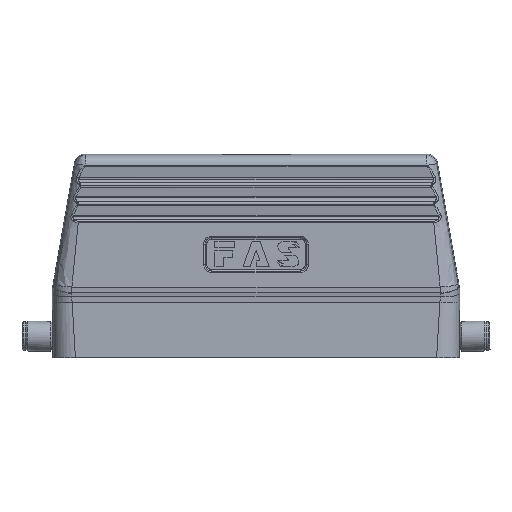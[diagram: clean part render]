
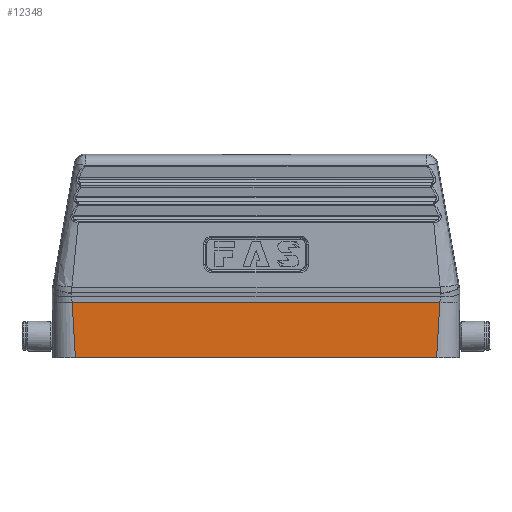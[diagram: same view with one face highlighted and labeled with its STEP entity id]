
A CAD part, front view. The second image highlights one B-rep face of the part: STEP entity #12348.
In plain terms, the highlighted planar face has unit normal (0, -1, 0).
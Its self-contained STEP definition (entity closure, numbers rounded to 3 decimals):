
#370 = CARTESIAN_POINT ( 'NONE',  ( -53.415, -21.5, 4.163 ) ) ;
#402 = DIRECTION ( 'NONE',  ( -1., 0., 0. ) ) ;
#453 = CARTESIAN_POINT ( 'NONE',  ( -53.912, -21.5, 12.355 ) ) ;
#481 = CARTESIAN_POINT ( 'NONE',  ( 53.901, -21.5, 12.14 ) ) ;
#532 = CARTESIAN_POINT ( 'NONE',  ( -53.421, -21.5, 4.255 ) ) ;
#704 = CARTESIAN_POINT ( 'NONE',  ( -53.963, -21.5, 13.356 ) ) ;
#710 = EDGE_LOOP ( 'NONE', ( #15019, #3205, #15597, #1263 ) ) ;
#1263 = ORIENTED_EDGE ( 'NONE', *, *, #15553, .T. ) ;
#1333 = DIRECTION ( 'NONE',  ( 0., 0., -1. ) ) ;
#2079 = CARTESIAN_POINT ( 'NONE',  ( 53.898, -21.5, 12.083 ) ) ;
#2160 = CARTESIAN_POINT ( 'NONE',  ( 53.244, -21.5, 1.55 ) ) ;
#2287 = CARTESIAN_POINT ( 'NONE',  ( -53.907, -21.5, 12.255 ) ) ;
#2317 = CARTESIAN_POINT ( 'NONE',  ( 54.035, -21.5, 14.859 ) ) ;
#2363 = CARTESIAN_POINT ( 'NONE',  ( -53.411, -21.5, 4.097 ) ) ;
#2672 = EDGE_CURVE ( 'NONE', #9287, #20702, #5827, .T. ) ;
#2719 = CARTESIAN_POINT ( 'NONE',  ( -54.095, -21.5, 16.289 ) ) ;
#3205 = ORIENTED_EDGE ( 'NONE', *, *, #21216, .T. ) ;
#3305 = B_SPLINE_CURVE_WITH_KNOTS ( 'NONE', 3,
 ( #9686, #15112, #13354, #704, #22538, #18859, #453, #15262, #2287, #18942, #16931, #5969, #17093, #18780, #13521, #20515, #22453, #7995, #20765, #9609, #16776, #20443, #5885, #22616, #18697, #11512, #532, #370, #22280, #2363, #4038, #15188, #4195, #11676 ),
 .UNSPECIFIED., .F., .F.,
 ( 4, 1, 1, 1, 1, 1, 2, 2, 1, 1, 1, 1, 1, 1, 1, 2, 2, 1, 1, 1, 1, 1, 1, 2, 2, 4 ),
 ( 0., 0.125, 0.188, 0.219, 0.234, 0.242, 0.246, 0.25, 0.375, 0.437, 0.469, 0.484, 0.492, 0.496, 0.498, 0.499, 0.5, 0.625, 0.687, 0.719, 0.734, 0.742, 0.746, 0.748, 0.75, 1. ),
 .UNSPECIFIED. ) ;
#3611 = CARTESIAN_POINT ( 'NONE',  ( 53.139, -21.5, 0. ) ) ;
#3824 = CARTESIAN_POINT ( 'NONE',  ( 53.781, -21.5, 9.983 ) ) ;
#3979 = CARTESIAN_POINT ( 'NONE',  ( 53.325, -21.5, 2.774 ) ) ;
#4038 = CARTESIAN_POINT ( 'NONE',  ( -53.41, -21.5, 4.082 ) ) ;
#4072 = CARTESIAN_POINT ( 'NONE',  ( 53.398, -21.5, 3.904 ) ) ;
#4195 = CARTESIAN_POINT ( 'NONE',  ( -53.22, -21.5, 1.189 ) ) ;
#4913 = DIRECTION ( 'NONE',  ( 0., -1., 0. ) ) ;
#5610 = CARTESIAN_POINT ( 'NONE',  ( 53.404, -21.5, 3.987 ) ) ;
#5763 = CARTESIAN_POINT ( 'NONE',  ( 53.846, -21.5, 11.135 ) ) ;
#5827 = LINE ( 'NONE', #9614, #13605 ) ;
#5885 = CARTESIAN_POINT ( 'NONE',  ( -53.581, -21.5, 6.744 ) ) ;
#5921 = CARTESIAN_POINT ( 'NONE',  ( 53.406, -21.5, 4.023 ) ) ;
#5969 = CARTESIAN_POINT ( 'NONE',  ( -53.821, -21.5, 10.662 ) ) ;
#7461 = CARTESIAN_POINT ( 'NONE',  ( 53.876, -21.5, 11.683 ) ) ;
#7625 = CARTESIAN_POINT ( 'NONE',  ( 53.903, -21.5, 12.194 ) ) ;
#7700 = CARTESIAN_POINT ( 'NONE',  ( 53.903, -21.5, 12.177 ) ) ;
#7791 = CARTESIAN_POINT ( 'NONE',  ( 53.662, -21.5, 8.029 ) ) ;
#7995 = CARTESIAN_POINT ( 'NONE',  ( -53.672, -21.5, 8.183 ) ) ;
#8592 = AXIS2_PLACEMENT_3D ( 'NONE', #20813, #4913, #1333 ) ;
#9287 = VERTEX_POINT ( 'NONE', #20193 ) ;
#9404 = CARTESIAN_POINT ( 'NONE',  ( 53.608, -21.5, 7.174 ) ) ;
#9609 = CARTESIAN_POINT ( 'NONE',  ( -53.67, -21.5, 8.154 ) ) ;
#9614 = CARTESIAN_POINT ( 'NONE',  ( 0., -21.5, 0. ) ) ;
#9639 = CARTESIAN_POINT ( 'NONE',  ( 53.972, -21.5, 13.501 ) ) ;
#9686 = CARTESIAN_POINT ( 'NONE',  ( -54.095, -21.5, 16.289 ) ) ;
#9876 = B_SPLINE_CURVE_WITH_KNOTS ( 'NONE', 3,
 ( #3611, #12902, #2160, #3979, #20549, #20302, #4072, #5610, #5921, #22402, #16806, #11387, #22153, #9404, #20388, #18648, #7791, #11462, #13220, #16730, #11224, #14830, #20230, #3824, #5763, #7461, #18567, #2079, #481, #7700, #7625, #9639, #2317, #18416 ),
 .UNSPECIFIED., .F., .F.,
 ( 4, 1, 1, 1, 1, 1, 1, 2, 2, 1, 1, 1, 1, 1, 1, 1, 2, 2, 1, 1, 1, 1, 1, 2, 2, 4 ),
 ( 0., 0.125, 0.188, 0.219, 0.234, 0.242, 0.246, 0.248, 0.25, 0.375, 0.438, 0.469, 0.484, 0.492, 0.496, 0.498, 0.499, 0.5, 0.625, 0.688, 0.719, 0.734, 0.742, 0.746, 0.75, 1. ),
 .UNSPECIFIED. ) ;
#10107 = VERTEX_POINT ( 'NONE', #11617 ) ;
#11224 = CARTESIAN_POINT ( 'NONE',  ( 53.669, -21.5, 8.134 ) ) ;
#11387 = CARTESIAN_POINT ( 'NONE',  ( 53.464, -21.5, 4.917 ) ) ;
#11462 = CARTESIAN_POINT ( 'NONE',  ( 53.666, -21.5, 8.086 ) ) ;
#11512 = CARTESIAN_POINT ( 'NONE',  ( -53.433, -21.5, 4.437 ) ) ;
#11617 = CARTESIAN_POINT ( 'NONE',  ( 54.095, -21.5, 16.289 ) ) ;
#11676 = CARTESIAN_POINT ( 'NONE',  ( -53.139, -21.5, 0. ) ) ;
#11759 = DIRECTION ( 'NONE',  ( 1., 0., 0. ) ) ;
#12307 = PLANE ( 'NONE',  #8592 ) ;
#12348 = ADVANCED_FACE ( 'NONE', ( #23137 ), #12307, .T. ) ;
#12671 = CARTESIAN_POINT ( 'NONE',  ( 53.139, -21.5, 0. ) ) ;
#12902 = CARTESIAN_POINT ( 'NONE',  ( 53.18, -21.5, 0.595 ) ) ;
#13220 = CARTESIAN_POINT ( 'NONE',  ( 53.667, -21.5, 8.114 ) ) ;
#13354 = CARTESIAN_POINT ( 'NONE',  ( -54.019, -21.5, 14.529 ) ) ;
#13521 = CARTESIAN_POINT ( 'NONE',  ( -53.69, -21.5, 8.473 ) ) ;
#13605 = VECTOR ( 'NONE', #11759, 1000. ) ;
#14830 = CARTESIAN_POINT ( 'NONE',  ( 53.669, -21.5, 8.136 ) ) ;
#15019 = ORIENTED_EDGE ( 'NONE', *, *, #2672, .T. ) ;
#15112 = CARTESIAN_POINT ( 'NONE',  ( -54.065, -21.5, 15.574 ) ) ;
#15188 = CARTESIAN_POINT ( 'NONE',  ( -53.31, -21.5, 2.546 ) ) ;
#15262 = CARTESIAN_POINT ( 'NONE',  ( -53.909, -21.5, 12.295 ) ) ;
#15553 = EDGE_CURVE ( 'NONE', #16643, #9287, #3305, .T. ) ;
#15597 = ORIENTED_EDGE ( 'NONE', *, *, #20143, .T. ) ;
#16643 = VERTEX_POINT ( 'NONE', #2719 ) ;
#16730 = CARTESIAN_POINT ( 'NONE',  ( 53.668, -21.5, 8.126 ) ) ;
#16776 = CARTESIAN_POINT ( 'NONE',  ( -53.669, -21.5, 8.146 ) ) ;
#16806 = CARTESIAN_POINT ( 'NONE',  ( 53.408, -21.5, 4.057 ) ) ;
#16931 = CARTESIAN_POINT ( 'NONE',  ( -53.873, -21.5, 11.618 ) ) ;
#17093 = CARTESIAN_POINT ( 'NONE',  ( -53.748, -21.5, 9.438 ) ) ;
#18416 = CARTESIAN_POINT ( 'NONE',  ( 54.095, -21.5, 16.289 ) ) ;
#18567 = CARTESIAN_POINT ( 'NONE',  ( 53.891, -21.5, 11.951 ) ) ;
#18648 = CARTESIAN_POINT ( 'NONE',  ( 53.655, -21.5, 7.914 ) ) ;
#18697 = CARTESIAN_POINT ( 'NONE',  ( -53.456, -21.5, 4.795 ) ) ;
#18780 = CARTESIAN_POINT ( 'NONE',  ( -53.71, -21.5, 8.799 ) ) ;
#18859 = CARTESIAN_POINT ( 'NONE',  ( -53.919, -21.5, 12.497 ) ) ;
#18942 = CARTESIAN_POINT ( 'NONE',  ( -53.906, -21.5, 12.233 ) ) ;
#20033 = LINE ( 'NONE', #20792, #20888 ) ;
#20143 = EDGE_CURVE ( 'NONE', #10107, #16643, #20033, .T. ) ;
#20193 = CARTESIAN_POINT ( 'NONE',  ( -53.139, -21.5, 0. ) ) ;
#20230 = CARTESIAN_POINT ( 'NONE',  ( 53.716, -21.5, 8.903 ) ) ;
#20302 = CARTESIAN_POINT ( 'NONE',  ( 53.388, -21.5, 3.739 ) ) ;
#20388 = CARTESIAN_POINT ( 'NONE',  ( 53.64, -21.5, 7.676 ) ) ;
#20443 = CARTESIAN_POINT ( 'NONE',  ( -53.637, -21.5, 7.634 ) ) ;
#20515 = CARTESIAN_POINT ( 'NONE',  ( -53.679, -21.5, 8.308 ) ) ;
#20549 = CARTESIAN_POINT ( 'NONE',  ( 53.366, -21.5, 3.413 ) ) ;
#20702 = VERTEX_POINT ( 'NONE', #12671 ) ;
#20765 = CARTESIAN_POINT ( 'NONE',  ( -53.671, -21.5, 8.166 ) ) ;
#20792 = CARTESIAN_POINT ( 'NONE',  ( -60., -21.5, 16.289 ) ) ;
#20813 = CARTESIAN_POINT ( 'NONE',  ( -60., -21.5, 0. ) ) ;
#20888 = VECTOR ( 'NONE', #402, 1000. ) ;
#21216 = EDGE_CURVE ( 'NONE', #20702, #10107, #9876, .T. ) ;
#22153 = CARTESIAN_POINT ( 'NONE',  ( 53.538, -21.5, 6.06 ) ) ;
#22280 = CARTESIAN_POINT ( 'NONE',  ( -53.413, -21.5, 4.123 ) ) ;
#22402 = CARTESIAN_POINT ( 'NONE',  ( 53.408, -21.5, 4.047 ) ) ;
#22453 = CARTESIAN_POINT ( 'NONE',  ( -53.674, -21.5, 8.225 ) ) ;
#22538 = CARTESIAN_POINT ( 'NONE',  ( -53.934, -21.5, 12.781 ) ) ;
#22616 = CARTESIAN_POINT ( 'NONE',  ( -53.5, -21.5, 5.482 ) ) ;
#23137 = FACE_OUTER_BOUND ( 'NONE', #710, .T. ) ;
